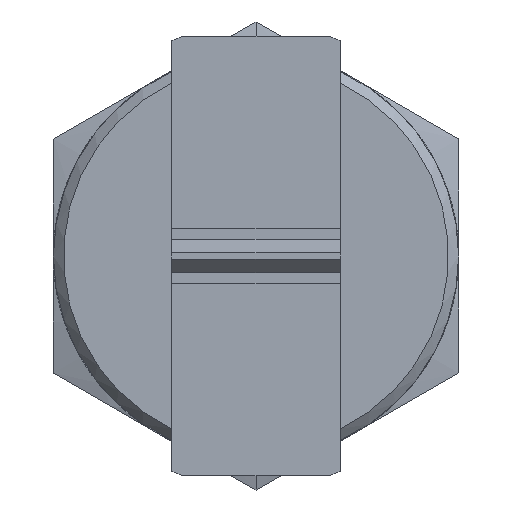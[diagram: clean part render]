
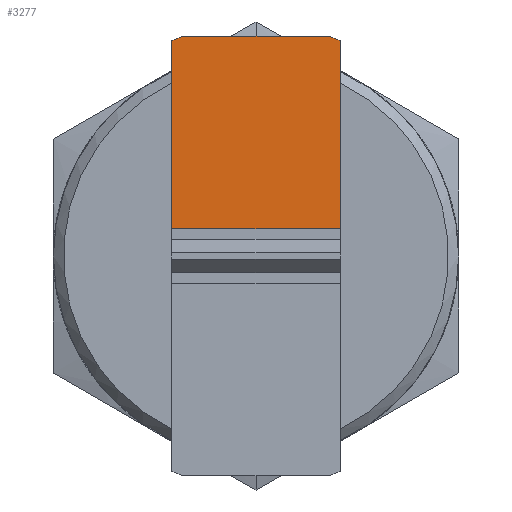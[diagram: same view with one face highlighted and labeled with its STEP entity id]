
A CAD part, left-side view. The second image highlights one B-rep face of the part: STEP entity #3277.
In plain terms, the highlighted planar face has unit normal (-1, 0, 0).
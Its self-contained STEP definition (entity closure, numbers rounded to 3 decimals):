
#35 = VERTEX_POINT ( 'NONE', #2443 ) ;
#37 = CIRCLE ( 'NONE', #3471, 6.85 ) ;
#133 = DIRECTION ( 'NONE',  ( 1., 0., 0. ) ) ;
#162 = PLANE ( 'NONE',  #2496 ) ;
#222 = LINE ( 'NONE', #2917, #2501 ) ;
#608 = CIRCLE ( 'NONE', #793, 6.85 ) ;
#792 = DIRECTION ( 'NONE',  ( 0., 0., 1. ) ) ;
#793 = AXIS2_PLACEMENT_3D ( 'NONE', #5100, #1183, #1126 ) ;
#977 = FACE_OUTER_BOUND ( 'NONE', #3279, .T. ) ;
#1013 = DIRECTION ( 'NONE',  ( 0., 0., 1. ) ) ;
#1019 = ORIENTED_EDGE ( 'NONE', *, *, #3234, .F. ) ;
#1126 = DIRECTION ( 'NONE',  ( 0., 0., 1. ) ) ;
#1183 = DIRECTION ( 'NONE',  ( 1., 0., 0. ) ) ;
#1211 = DIRECTION ( 'NONE',  ( 0., -1., 0. ) ) ;
#1250 = EDGE_CURVE ( 'NONE', #3660, #4339, #37, .T. ) ;
#1259 = ORIENTED_EDGE ( 'NONE', *, *, #1250, .F. ) ;
#1261 = VECTOR ( 'NONE', #792, 1000. ) ;
#1346 = ORIENTED_EDGE ( 'NONE', *, *, #4075, .T. ) ;
#1414 = LINE ( 'NONE', #3614, #2041 ) ;
#1449 = LINE ( 'NONE', #1941, #4544 ) ;
#1741 = ORIENTED_EDGE ( 'NONE', *, *, #4957, .F. ) ;
#1852 = DIRECTION ( 'NONE',  ( 0., 1., 0. ) ) ;
#1935 = DIRECTION ( 'NONE',  ( 0., 0., 1. ) ) ;
#1941 = CARTESIAN_POINT ( 'NONE',  ( 0., -2.5, 6.5 ) ) ;
#2041 = VECTOR ( 'NONE', #1935, 1000. ) ;
#2090 = CARTESIAN_POINT ( 'NONE',  ( 0., -2.5, 0.8 ) ) ;
#2260 = VERTEX_POINT ( 'NONE', #4440 ) ;
#2347 = CARTESIAN_POINT ( 'NONE',  ( 0., 2.5, 6.377 ) ) ;
#2365 = CARTESIAN_POINT ( 'NONE',  ( 0., -2.5, 6.5 ) ) ;
#2443 = CARTESIAN_POINT ( 'NONE',  ( 0., 2.5, 0.8 ) ) ;
#2496 = AXIS2_PLACEMENT_3D ( 'NONE', #2365, #3697, #4520 ) ;
#2501 = VECTOR ( 'NONE', #1211, 1000. ) ;
#2708 = VERTEX_POINT ( 'NONE', #2090 ) ;
#2917 = CARTESIAN_POINT ( 'NONE',  ( 0., -2.5, 0.8 ) ) ;
#3234 = EDGE_CURVE ( 'NONE', #35, #3660, #1414, .T. ) ;
#3277 = ADVANCED_FACE ( 'NONE', ( #977 ), #162, .T. ) ;
#3279 = EDGE_LOOP ( 'NONE', ( #1019, #5640, #3328, #1741, #1346, #1259 ) ) ;
#3328 = ORIENTED_EDGE ( 'NONE', *, *, #5064, .T. ) ;
#3471 = AXIS2_PLACEMENT_3D ( 'NONE', #4116, #133, #1013 ) ;
#3524 = CARTESIAN_POINT ( 'NONE',  ( 0., -2.5, 6.5 ) ) ;
#3531 = EDGE_CURVE ( 'NONE', #35, #2708, #222, .T. ) ;
#3614 = CARTESIAN_POINT ( 'NONE',  ( 0., 2.5, 0. ) ) ;
#3660 = VERTEX_POINT ( 'NONE', #2347 ) ;
#3697 = DIRECTION ( 'NONE',  ( -1., 0., 0. ) ) ;
#3909 = CARTESIAN_POINT ( 'NONE',  ( 0., -2.5, 6.377 ) ) ;
#4075 = EDGE_CURVE ( 'NONE', #2260, #4339, #1449, .T. ) ;
#4116 = CARTESIAN_POINT ( 'NONE',  ( 0., 0., 0. ) ) ;
#4339 = VERTEX_POINT ( 'NONE', #4358 ) ;
#4358 = CARTESIAN_POINT ( 'NONE',  ( 0., 2.162, 6.5 ) ) ;
#4440 = CARTESIAN_POINT ( 'NONE',  ( 0., -2.162, 6.5 ) ) ;
#4520 = DIRECTION ( 'NONE',  ( 0., 0., 1. ) ) ;
#4544 = VECTOR ( 'NONE', #1852, 1000. ) ;
#4769 = VERTEX_POINT ( 'NONE', #3909 ) ;
#4779 = LINE ( 'NONE', #3524, #1261 ) ;
#4957 = EDGE_CURVE ( 'NONE', #2260, #4769, #608, .T. ) ;
#5064 = EDGE_CURVE ( 'NONE', #2708, #4769, #4779, .T. ) ;
#5100 = CARTESIAN_POINT ( 'NONE',  ( 0., 0., 0. ) ) ;
#5640 = ORIENTED_EDGE ( 'NONE', *, *, #3531, .T. ) ;
